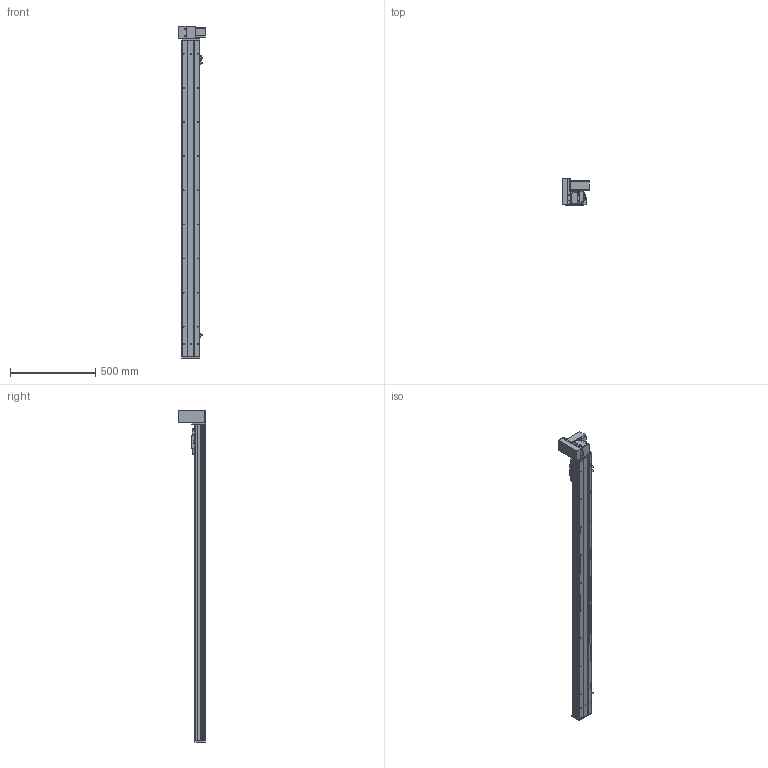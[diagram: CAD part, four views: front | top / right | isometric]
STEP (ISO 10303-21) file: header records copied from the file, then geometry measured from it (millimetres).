
FILE_DESCRIPTION (( 'STEP AP203' ), '1' );
FILE_NAME ('Y10CB-D90-S1600-UL-P400W.STEP', '2020-02-16T07:59:26', ( '微软用户' ), ( '微软中国' ), 'SwSTEP 2.0', 'SolidWorks 2017', '' );
FILE_SCHEMA (( 'CONFIG_CONTROL_DESIGN' ));
Length unit declared in the file: millimetre
Products named in the file (18): 10CB-耜裔; 0B-萇儂楊擘啣; Y135C-陔俋离換覜結え-; san松下电机400不带刹车----; Y100-135俋离換覜ん--; 0B-源倛裔啣; Y10B-耜蚾蟀諉啣----; 0B-埴倛裔啣; 00B-俋欶BM--; 10CB-詩湍-; Y10B--々湍喘謫眊--666; Y10CB- 掛极耜裔啣-毀---; 0CB-雄赽釱---; Y10CB-D90-S1600-UL-P400W; Y10C---詩湍揤啣; 0Cb-俋欶---; 10CB9-掛极; Y10B-々湍喘謫眊楊擘啣--
Assembly tree (21 placements, depth 2):
  Y10CB-D90-S1600-UL-P400W
    0CB-雄赽釱---
    0Cb-俋欶---
    Y10B-々湍喘謫眊楊擘啣--
    0B-萇儂楊擘啣
    san松下电机400不带刹车----
    0B-源倛裔啣
    0B-埴倛裔啣
    10CB-詩湍-
    Y10CB- 掛极耜裔啣-毀---  x2
    Y10C---詩湍揤啣  x2
    10CB9-掛极
    10CB-耜裔
    Y135C-陔俋离換覜結え-
    Y100-135俋离換覜ん--  x3
    Y10B-耜蚾蟀諉啣----
    00B-俋欶BM--
    Y10B--々湍喘謫眊--666
Bounding box: 157 x 155.5 x 1946 mm (x, y, z)
Volume: 4182857.3 mm3; surface area: 1939796 mm2
Topology: 21 solids, 21 shells, 1026 faces, 2763 edges, 1802 vertices
Faces by surface type: cylinder 519, plane 483, cone 24
Entity records: 32412 total; most frequent: CARTESIAN_POINT 5913, DIRECTION 5202, ORIENTED_EDGE 4996, EDGE_CURVE 2498, AXIS2_PLACEMENT_3D 1861, VERTEX_POINT 1628, VECTOR 1480, LINE 1480
